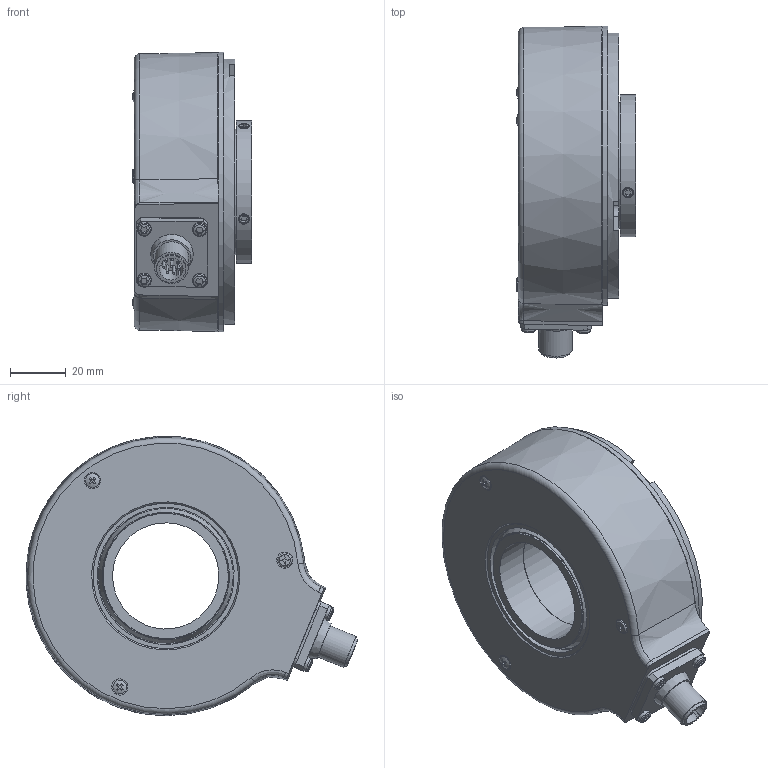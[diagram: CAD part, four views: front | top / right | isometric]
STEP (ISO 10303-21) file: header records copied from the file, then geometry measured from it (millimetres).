
FILE_DESCRIPTION (( 'STEP AP203' ), '1' );
FILE_NAME ('8.A020.12XE.XXXX.STEP', '2013-07-08T13:01:56', ( 'Hodot' ), ( '' ), 'SwSTEP 2.0', 'SolidWorks 2012', '' );
FILE_SCHEMA (( 'CONFIG_CONTROL_DESIGN' ));
Length unit declared in the file: millimetre
Products named in the file (1): 8.A020.12XE.XXXX
Bounding box: 42.6 x 118.73 x 99.95 mm (x, y, z)
Volume: 153823.3 mm3; surface area: 92869 mm2
Topology: 20 solids, 20 shells, 554 faces, 1351 edges, 891 vertices
Faces by surface type: plane 284, cylinder 140, cone 66, sphere 38, torus 22, bspline 4
Full cylindrical faces by diameter (mm): 0.8 x8, 2.05 x5, 2.5 x23, 2.6 x3, 2.7 x4, 2.8 x4, 3 x7, 3.04 x3, 3.3 x5, 4 x2, 5 x6, 5.8 x3, 10.5 x2, 12 x1, 20 x1, 20.5 x1, 38 x2, 38.3 x1, 38.8 x1, 39.5 x3, 44.8 x1, 45 x3, 48 x1, 48.7 x1, 49 x3, 51 x1, 52 x2, 54.5 x1, 56 x2, 58 x2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
Entity records: 16757 total; most frequent: CARTESIAN_POINT 4912, DIRECTION 2474, ORIENTED_EDGE 2002, EDGE_CURVE 1001, AXIS2_PLACEMENT_3D 996, EDGE_LOOP 945, VERTEX_POINT 778, FACE_OUTER_BOUND 713
